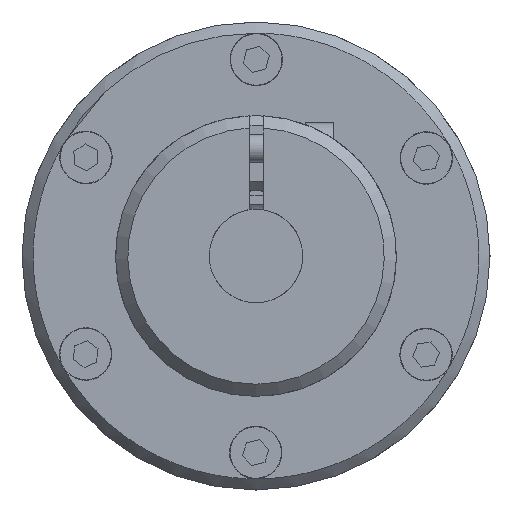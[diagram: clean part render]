
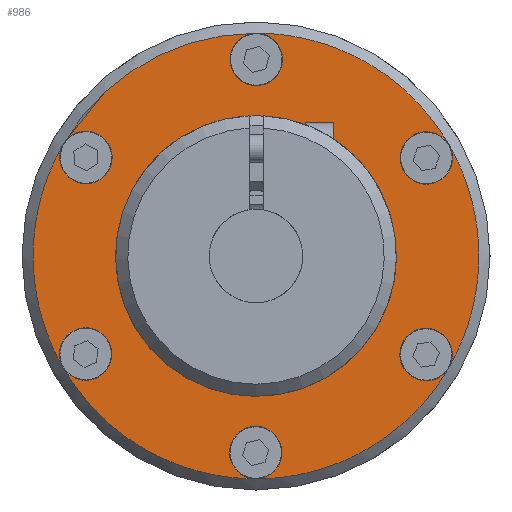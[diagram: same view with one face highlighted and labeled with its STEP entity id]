
A CAD part, left-side view. The second image highlights one B-rep face of the part: STEP entity #986.
In plain terms, the highlighted planar face has unit normal (-1, 0, 0).
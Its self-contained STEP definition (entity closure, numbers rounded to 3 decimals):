
#986 = ADVANCED_FACE( '', ( #1814, #1815 ), #1816, .F. );
#1814 = FACE_OUTER_BOUND( '', #2535, .T. );
#1815 = FACE_BOUND( '', #2536, .T. );
#1816 = PLANE( '', #2537 );
#2535 = EDGE_LOOP( '', ( #3744, #3745, #3746, #3747, #3748, #3749, #3750, #3751, #3752, #3753, #3754, #3755 ) );
#2536 = EDGE_LOOP( '', ( #3756, #3757, #3758, #3759, #3760, #3761, #3762, #3763 ) );
#2537 = AXIS2_PLACEMENT_3D( '', #3764, #3765, #3766 );
#3744 = ORIENTED_EDGE( '', *, *, #5042, .T. );
#3745 = ORIENTED_EDGE( '', *, *, #5048, .T. );
#3746 = ORIENTED_EDGE( '', *, *, #5047, .T. );
#3747 = ORIENTED_EDGE( '', *, *, #5026, .T. );
#3748 = ORIENTED_EDGE( '', *, *, #5046, .T. );
#3749 = ORIENTED_EDGE( '', *, *, #5023, .T. );
#3750 = ORIENTED_EDGE( '', *, *, #5045, .T. );
#3751 = ORIENTED_EDGE( '', *, *, #5069, .T. );
#3752 = ORIENTED_EDGE( '', *, *, #5044, .T. );
#3753 = ORIENTED_EDGE( '', *, *, #5070, .T. );
#3754 = ORIENTED_EDGE( '', *, *, #5043, .T. );
#3755 = ORIENTED_EDGE( '', *, *, #5012, .T. );
#3756 = ORIENTED_EDGE( '', *, *, #5022, .F. );
#3757 = ORIENTED_EDGE( '', *, *, #5019, .F. );
#3758 = ORIENTED_EDGE( '', *, *, #5057, .F. );
#3759 = ORIENTED_EDGE( '', *, *, #5071, .F. );
#3760 = ORIENTED_EDGE( '', *, *, #5072, .F. );
#3761 = ORIENTED_EDGE( '', *, *, #5064, .F. );
#3762 = ORIENTED_EDGE( '', *, *, #5054, .F. );
#3763 = ORIENTED_EDGE( '', *, *, #5065, .F. );
#3764 = CARTESIAN_POINT( '', ( -10., 25., 0. ) );
#3765 = DIRECTION( '', ( 1., 0., 0. ) );
#3766 = DIRECTION( '', ( 0., 1., 0. ) );
#5012 = EDGE_CURVE( '', #5723, #5723, #5724, .T. );
#5019 = EDGE_CURVE( '', #5736, #5731, #5738, .T. );
#5022 = EDGE_CURVE( '', #5731, #5740, #5743, .F. );
#5023 = EDGE_CURVE( '', #5744, #5744, #5745, .T. );
#5026 = EDGE_CURVE( '', #5750, #5750, #5751, .T. );
#5042 = EDGE_CURVE( '', #5723, #5778, #5779, .F. );
#5043 = EDGE_CURVE( '', #5780, #5723, #5781, .F. );
#5044 = EDGE_CURVE( '', #5782, #5780, #5783, .F. );
#5045 = EDGE_CURVE( '', #5744, #5782, #5784, .F. );
#5046 = EDGE_CURVE( '', #5750, #5744, #5785, .F. );
#5047 = EDGE_CURVE( '', #5778, #5750, #5786, .F. );
#5048 = EDGE_CURVE( '', #5778, #5778, #5787, .T. );
#5054 = EDGE_CURVE( '', #5795, #5797, #5798, .F. );
#5057 = EDGE_CURVE( '', #5800, #5736, #5802, .F. );
#5064 = EDGE_CURVE( '', #5797, #5810, #5814, .T. );
#5065 = EDGE_CURVE( '', #5740, #5795, #5815, .T. );
#5069 = EDGE_CURVE( '', #5782, #5782, #5820, .T. );
#5070 = EDGE_CURVE( '', #5780, #5780, #5821, .T. );
#5071 = EDGE_CURVE( '', #5822, #5800, #5823, .T. );
#5072 = EDGE_CURVE( '', #5810, #5822, #5824, .F. );
#5723 = VERTEX_POINT( '', #6584 );
#5724 = CIRCLE( '', #6585, 2.8 );
#5731 = VERTEX_POINT( '', #6592 );
#5736 = VERTEX_POINT( '', #6598 );
#5738 = CIRCLE( '', #6601, 16.5 );
#5740 = VERTEX_POINT( '', #6603 );
#5743 = CIRCLE( '', #6607, 15. );
#5744 = VERTEX_POINT( '', #6608 );
#5745 = CIRCLE( '', #6609, 2.8 );
#5750 = VERTEX_POINT( '', #6614 );
#5751 = CIRCLE( '', #6615, 2.8 );
#5778 = VERTEX_POINT( '', #6660 );
#5779 = CIRCLE( '', #6661, 23.8 );
#5780 = VERTEX_POINT( '', #6662 );
#5781 = CIRCLE( '', #6663, 23.8 );
#5782 = VERTEX_POINT( '', #6664 );
#5783 = CIRCLE( '', #6665, 23.8 );
#5784 = CIRCLE( '', #6666, 23.8 );
#5785 = CIRCLE( '', #6667, 23.8 );
#5786 = CIRCLE( '', #6668, 23.8 );
#5787 = CIRCLE( '', #6669, 2.8 );
#5795 = VERTEX_POINT( '', #6677 );
#5797 = VERTEX_POINT( '', #6680 );
#5798 = CIRCLE( '', #6681, 7. );
#5800 = VERTEX_POINT( '', #6684 );
#5802 = CIRCLE( '', #6687, 7. );
#5810 = VERTEX_POINT( '', #6695 );
#5814 = CIRCLE( '', #6700, 16.5 );
#5815 = CIRCLE( '', #6701, 16.5 );
#5820 = CIRCLE( '', #6712, 2.8 );
#5821 = CIRCLE( '', #6713, 2.8 );
#5822 = VERTEX_POINT( '', #6714 );
#5823 = CIRCLE( '', #6715, 16.5 );
#5824 = CIRCLE( '', #6716, 15. );
#6584 = CARTESIAN_POINT( '', ( -10., 0., 23.8 ) );
#6585 = AXIS2_PLACEMENT_3D( '', #7862, #7863, #7864 );
#6592 = CARTESIAN_POINT( '', ( -10., 6.818, -13.361 ) );
#6598 = CARTESIAN_POINT( '', ( -10., 1.485, -6.841 ) );
#6601 = AXIS2_PLACEMENT_3D( '', #7879, #7880, #7881 );
#6603 = CARTESIAN_POINT( '', ( -10., -6.818, -13.361 ) );
#6607 = AXIS2_PLACEMENT_3D( '', #7886, #7887, #7888 );
#6608 = CARTESIAN_POINT( '', ( -10., 0., -23.8 ) );
#6609 = AXIS2_PLACEMENT_3D( '', #7889, #7890, #7891 );
#6614 = CARTESIAN_POINT( '', ( -10., 20.611, -11.9 ) );
#6615 = AXIS2_PLACEMENT_3D( '', #7898, #7899, #7900 );
#6660 = CARTESIAN_POINT( '', ( -10., 20.611, 11.9 ) );
#6661 = AXIS2_PLACEMENT_3D( '', #7928, #7929, #7930 );
#6662 = CARTESIAN_POINT( '', ( -10., -20.611, 11.9 ) );
#6663 = AXIS2_PLACEMENT_3D( '', #7931, #7932, #7933 );
#6664 = CARTESIAN_POINT( '', ( -10., -20.611, -11.9 ) );
#6665 = AXIS2_PLACEMENT_3D( '', #7934, #7935, #7936 );
#6666 = AXIS2_PLACEMENT_3D( '', #7937, #7938, #7939 );
#6667 = AXIS2_PLACEMENT_3D( '', #7940, #7941, #7942 );
#6668 = AXIS2_PLACEMENT_3D( '', #7943, #7944, #7945 );
#6669 = AXIS2_PLACEMENT_3D( '', #7946, #7947, #7948 );
#6677 = CARTESIAN_POINT( '', ( -10., -1.485, -6.841 ) );
#6680 = CARTESIAN_POINT( '', ( -10., -1.485, 6.841 ) );
#6681 = AXIS2_PLACEMENT_3D( '', #7962, #7963, #7964 );
#6684 = CARTESIAN_POINT( '', ( -10., 1.485, 6.841 ) );
#6687 = AXIS2_PLACEMENT_3D( '', #7967, #7968, #7969 );
#6695 = CARTESIAN_POINT( '', ( -10., -6.818, 13.361 ) );
#6700 = AXIS2_PLACEMENT_3D( '', #7986, #7987, #7988 );
#6701 = AXIS2_PLACEMENT_3D( '', #7989, #7990, #7991 );
#6712 = AXIS2_PLACEMENT_3D( '', #7995, #7996, #7997 );
#6713 = AXIS2_PLACEMENT_3D( '', #7998, #7999, #8000 );
#6714 = CARTESIAN_POINT( '', ( -10., 6.818, 13.361 ) );
#6715 = AXIS2_PLACEMENT_3D( '', #8001, #8002, #8003 );
#6716 = AXIS2_PLACEMENT_3D( '', #8004, #8005, #8006 );
#7862 = CARTESIAN_POINT( '', ( -10., 0., 21. ) );
#7863 = DIRECTION( '', ( 1., 0., 0. ) );
#7864 = DIRECTION( '', ( 0., 0., -1. ) );
#7879 = CARTESIAN_POINT( '', ( -10., 16.5, 0. ) );
#7880 = DIRECTION( '', ( 1., 0., 0. ) );
#7881 = DIRECTION( '', ( 0., 0., -1. ) );
#7886 = CARTESIAN_POINT( '', ( -10., 0., 0. ) );
#7887 = DIRECTION( '', ( 1., 0., 0. ) );
#7888 = DIRECTION( '', ( 0., 0., -1. ) );
#7889 = CARTESIAN_POINT( '', ( -10., 0., -21. ) );
#7890 = DIRECTION( '', ( 1., 0., 0. ) );
#7891 = DIRECTION( '', ( 0., 0., -1. ) );
#7898 = CARTESIAN_POINT( '', ( -10., 18.187, -10.5 ) );
#7899 = DIRECTION( '', ( 1., 0., 0. ) );
#7900 = DIRECTION( '', ( 0., 0., -1. ) );
#7928 = CARTESIAN_POINT( '', ( -10., 0., 0. ) );
#7929 = DIRECTION( '', ( 1., 0., 0. ) );
#7930 = DIRECTION( '', ( 0., 0., -1. ) );
#7931 = CARTESIAN_POINT( '', ( -10., 0., 0. ) );
#7932 = DIRECTION( '', ( 1., 0., 0. ) );
#7933 = DIRECTION( '', ( 0., 0., -1. ) );
#7934 = CARTESIAN_POINT( '', ( -10., 0., 0. ) );
#7935 = DIRECTION( '', ( 1., 0., 0. ) );
#7936 = DIRECTION( '', ( 0., 0., -1. ) );
#7937 = CARTESIAN_POINT( '', ( -10., 0., 0. ) );
#7938 = DIRECTION( '', ( 1., 0., 0. ) );
#7939 = DIRECTION( '', ( 0., 0., -1. ) );
#7940 = CARTESIAN_POINT( '', ( -10., 0., 0. ) );
#7941 = DIRECTION( '', ( 1., 0., 0. ) );
#7942 = DIRECTION( '', ( 0., 0., -1. ) );
#7943 = CARTESIAN_POINT( '', ( -10., 0., 0. ) );
#7944 = DIRECTION( '', ( 1., 0., 0. ) );
#7945 = DIRECTION( '', ( 0., 0., -1. ) );
#7946 = CARTESIAN_POINT( '', ( -10., 18.187, 10.5 ) );
#7947 = DIRECTION( '', ( 1., 0., 0. ) );
#7948 = DIRECTION( '', ( 0., 0., -1. ) );
#7962 = CARTESIAN_POINT( '', ( -10., 0., 0. ) );
#7963 = DIRECTION( '', ( 1., 0., 0. ) );
#7964 = DIRECTION( '', ( 0., 0., -1. ) );
#7967 = CARTESIAN_POINT( '', ( -10., 0., 0. ) );
#7968 = DIRECTION( '', ( 1., 0., 0. ) );
#7969 = DIRECTION( '', ( 0., 0., -1. ) );
#7986 = CARTESIAN_POINT( '', ( -10., -16.5, 0. ) );
#7987 = DIRECTION( '', ( 1., 0., 0. ) );
#7988 = DIRECTION( '', ( 0., 0., -1. ) );
#7989 = CARTESIAN_POINT( '', ( -10., -16.5, 0. ) );
#7990 = DIRECTION( '', ( 1., 0., 0. ) );
#7991 = DIRECTION( '', ( 0., 0., -1. ) );
#7995 = CARTESIAN_POINT( '', ( -10., -18.187, -10.5 ) );
#7996 = DIRECTION( '', ( 1., 0., 0. ) );
#7997 = DIRECTION( '', ( 0., 0., -1. ) );
#7998 = CARTESIAN_POINT( '', ( -10., -18.187, 10.5 ) );
#7999 = DIRECTION( '', ( 1., 0., 0. ) );
#8000 = DIRECTION( '', ( 0., 0., -1. ) );
#8001 = CARTESIAN_POINT( '', ( -10., 16.5, 0. ) );
#8002 = DIRECTION( '', ( 1., 0., 0. ) );
#8003 = DIRECTION( '', ( 0., 0., -1. ) );
#8004 = CARTESIAN_POINT( '', ( -10., 0., 0. ) );
#8005 = DIRECTION( '', ( 1., 0., 0. ) );
#8006 = DIRECTION( '', ( 0., 0., -1. ) );
